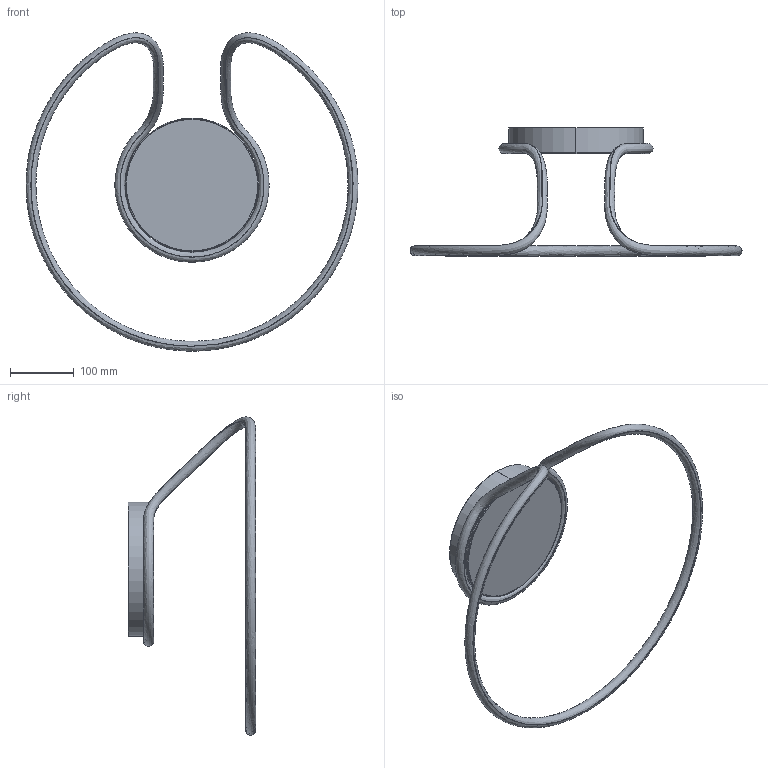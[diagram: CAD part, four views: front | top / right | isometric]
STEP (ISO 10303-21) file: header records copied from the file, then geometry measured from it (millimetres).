
FILE_DESCRIPTION(/* description */ (''),/* implementation_level */ '2;1');
FILE_NAME(/* name */ 'VT-7784.stp',/* time_stamp */ '2026-06-23T17:04:41+08:00',/* author */ (''),/* organization */ (''),/* preprocessor_version */ 'ST-DEVELOPER v16',/* originating_system */ 'SIEMENS PLM Software NX 10.0',/* authorisation */ '');
FILE_SCHEMA (('AP203_CONFIGURATION_CONTROLLED_3D_DESIGN_OF_MECHANICAL_PARTS_AND_ASSEMBLIES_MIM_LF { 1 0 10303 403 2 1 2}'));
Products named in the file (1): 1552CC2152sco
Bounding box: 519.93 x 200.21 x 498.46 mm (x, y, z)
Volume: 234038.9 mm3; surface area: 354320 mm2
Topology: 3 solids, 3 shells, 17 faces, 34 edges, 20 vertices
Faces by surface type: bspline 8, cylinder 4, plane 3, torus 2
Entity records: 42934 total; most frequent: CARTESIAN_POINT 42561, ORIENTED_EDGE 48, DIRECTION 48, EDGE_LOOP 26, EDGE_CURVE 24, AXIS2_PLACEMENT_3D 22, FACE_BOUND 18, VERTEX_POINT 18
